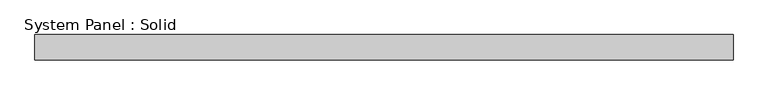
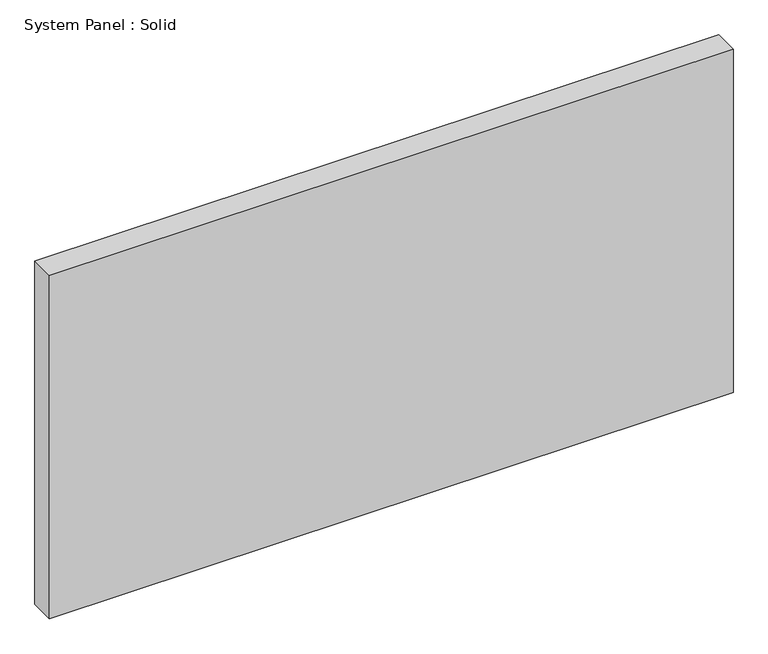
"""IFC4 building model written with IfcOpenShell, lengths in millimetres: plate geometry, System Panel : Solid."""

from ifc_helpers import new_model, si_unit, origin, origin_with_axes, place, context, project, spatial, polyline, outline, extrude, source, transform, mapped, element, save


def system_panel_solid_f88b124e(model_context):
    return source(origin(), model_context, "Body", "SweptSolid", [
        extrude(outline(polyline([(866.775, -19.05), (-866.775, -19.05), (-866.775, 44.45), (866.775, 44.45), (866.775, -19.05)])), origin_with_axes(), (0.0, 0.0, 1.0), 920.75),
    ])


if __name__ == "__main__":
    model = new_model("IFC4")
    model_context = context("Model", 3, world=origin())
    ifc_project = project(units=[si_unit("LENGTHUNIT", "METRE", prefix="MILLI")], contexts=[model_context])
    site = spatial("IfcSite", under=ifc_project)
    building = spatial("IfcBuilding", under=site)
    placement = place(None, origin())
    system_panel_solid_shape = system_panel_solid_f88b124e(model_context)
    element("IfcPlate", 1, ObjectType="System Panel : Solid", at=placement, inside=building, context=model_context, shape_type="MappedRepresentation", body=[
        mapped(system_panel_solid_shape, transform((0.0, 0.0, 0.0), x_axis=(1.0, 0.0, 0.0), y_axis=(0.0, 1.0, 0.0), z_axis=(0.0, 0.0, 1.0))),
    ])
    save(model, "model.ifc")
